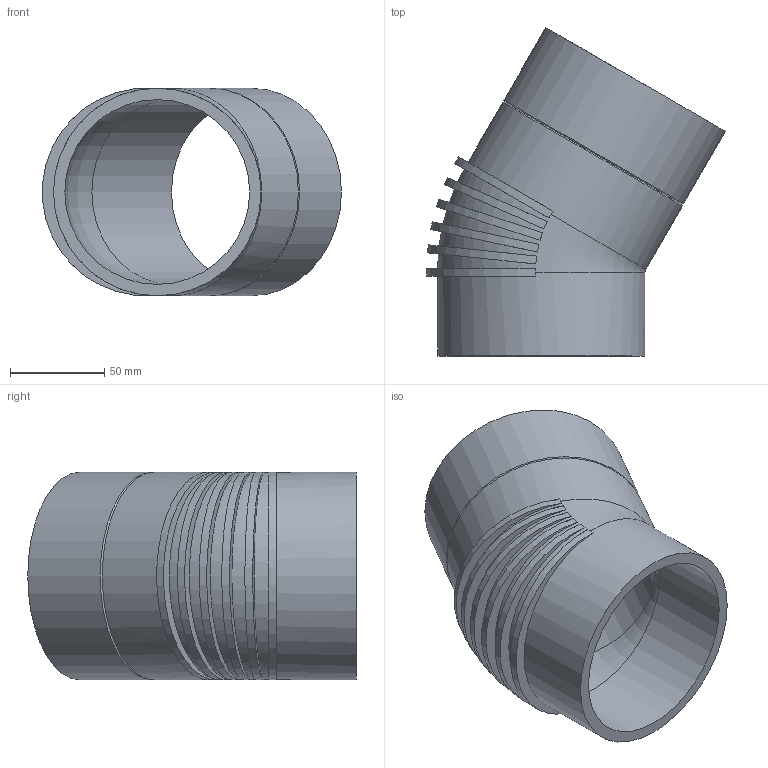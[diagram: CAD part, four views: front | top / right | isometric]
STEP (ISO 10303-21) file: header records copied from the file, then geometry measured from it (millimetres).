
FILE_DESCRIPTION(/* description */ (''),/* implementation_level */ '2;1');
FILE_NAME(/* name */ 'Z:\Geberit\Export\NewStep\Bogen_Ipart\stp\310300.stp',/* time_stamp */ '2014-04-03T16:42:27+02:00',/* author */ ('Marco'),/* organization */ (''),/* preprocessor_version */ 'ST-DEVELOPER v15.2',/* originating_system */ 'Autodesk Inventor 2014',/* authorisation */ '');
FILE_SCHEMA (('AUTOMOTIVE_DESIGN { 1 0 10303 214 3 1 1 }'));
Length unit declared in the file: millimetre
Products named in the file (1): 310300
Bounding box: 158.43 x 174.1 x 110 mm (x, y, z)
Volume: 328660.8 mm3; surface area: 116678.6 mm2
Topology: 1 solids, 1 shells, 29 faces, 78 edges, 51 vertices
Faces by surface type: plane 14, cylinder 11, cone 2, torus 2
Full cylindrical faces by diameter (mm): 98 x2, 110 x3
Entity records: 1186 total; most frequent: CARTESIAN_POINT 522, ORIENTED_EDGE 122, DIRECTION 114, EDGE_CURVE 61, AXIS2_PLACEMENT_3D 55, VERTEX_POINT 47, EDGE_LOOP 44, B_SPLINE_CURVE_WITH_KNOTS 32
